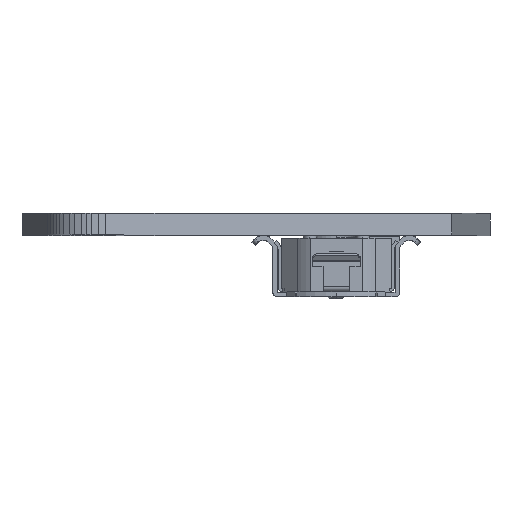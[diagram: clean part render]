
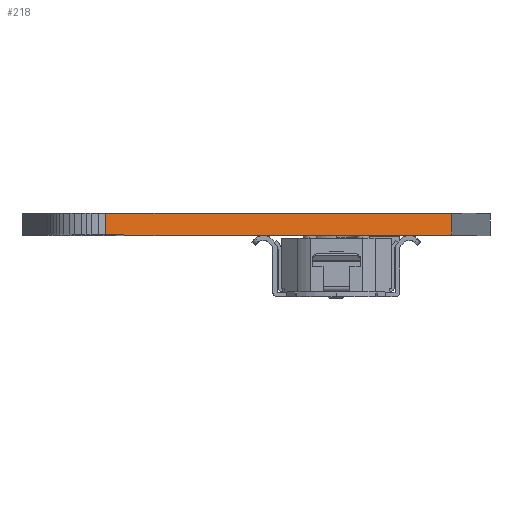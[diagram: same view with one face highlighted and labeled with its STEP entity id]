
A CAD part, top view. The second image highlights one B-rep face of the part: STEP entity #218.
In plain terms, the highlighted free-form (B-spline) face has degree [1, 1] with [2, 2] control points.
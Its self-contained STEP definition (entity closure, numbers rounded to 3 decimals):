
#57 = B_SPLINE_SURFACE_WITH_KNOTS('',1,1,(
    (#58,#59)
    ,(#60,#61
    )),.UNSPECIFIED.,.F.,.F.,.F.,(2,2),(2,2),(0.,0.339),(
    -0.9,0.),.PIECEWISE_BEZIER_KNOTS.);
#58 = CARTESIAN_POINT('',(8.684,2.5,45.989));
#59 = CARTESIAN_POINT('',(8.684,3.5,45.989));
#60 = CARTESIAN_POINT('',(9.018,2.5,45.931));
#61 = CARTESIAN_POINT('',(9.018,3.5,45.931));
#80 = VERTEX_POINT('',#81);
#81 = CARTESIAN_POINT('',(9.018,2.5,45.931));
#93 = B_SPLINE_SURFACE_WITH_KNOTS('',1,1,(
    (#94,#95)
    ,(#96,#97
    )),.UNSPECIFIED.,.F.,.F.,.F.,(2,2),(2,2),(33.2,54.497),(
    -21.839,-1.503),.PIECEWISE_BEZIER_KNOTS.);
#94 = CARTESIAN_POINT('',(5.2,2.5,25.661));
#95 = CARTESIAN_POINT('',(5.2,2.5,45.997));
#96 = CARTESIAN_POINT('',(26.497,2.5,25.661));
#97 = CARTESIAN_POINT('',(26.497,2.5,45.997));
#104 = EDGE_CURVE('',#105,#80,#107,.T.);
#105 = VERTEX_POINT('',#106);
#106 = CARTESIAN_POINT('',(9.018,3.5,45.931));
#107 = SURFACE_CURVE('',#108,(#111,#117),.PCURVE_S1.);
#108 = B_SPLINE_CURVE_WITH_KNOTS('',1,(#109,#110),.UNSPECIFIED.,.F.,.F.,
  (2,2),(0.,0.9),.PIECEWISE_BEZIER_KNOTS.);
#109 = CARTESIAN_POINT('',(9.018,3.5,45.931));
#110 = CARTESIAN_POINT('',(9.018,2.5,45.931));
#111 = PCURVE('',#57,#112);
#112 = DEFINITIONAL_REPRESENTATION('',(#113),#116);
#113 = B_SPLINE_CURVE_WITH_KNOTS('',1,(#114,#115),.UNSPECIFIED.,.F.,.F.,
  (2,2),(0.,0.9),.PIECEWISE_BEZIER_KNOTS.);
#114 = CARTESIAN_POINT('',(0.339,0.));
#115 = CARTESIAN_POINT('',(0.339,-0.9));
#116 = ( GEOMETRIC_REPRESENTATION_CONTEXT(2) 
PARAMETRIC_REPRESENTATION_CONTEXT() REPRESENTATION_CONTEXT('2D SPACE',''
  ) );
#117 = PCURVE('',#118,#123);
#118 = B_SPLINE_SURFACE_WITH_KNOTS('',1,1,(
    (#119,#120)
    ,(#121,#122
    )),.UNSPECIFIED.,.F.,.F.,.F.,(2,2),(2,2),(0.,16.168),(
    -0.9,0.),.PIECEWISE_BEZIER_KNOTS.);
#119 = CARTESIAN_POINT('',(9.018,2.5,45.931));
#120 = CARTESIAN_POINT('',(9.018,3.5,45.931));
#121 = CARTESIAN_POINT('',(24.75,2.5,42.2));
#122 = CARTESIAN_POINT('',(24.75,3.5,42.2));
#123 = DEFINITIONAL_REPRESENTATION('',(#124),#127);
#124 = B_SPLINE_CURVE_WITH_KNOTS('',1,(#125,#126),.UNSPECIFIED.,.F.,.F.,
  (2,2),(0.,0.9),.PIECEWISE_BEZIER_KNOTS.);
#125 = CARTESIAN_POINT('',(0.,0.));
#126 = CARTESIAN_POINT('',(0.,-0.9));
#127 = ( GEOMETRIC_REPRESENTATION_CONTEXT(2) 
PARAMETRIC_REPRESENTATION_CONTEXT() REPRESENTATION_CONTEXT('2D SPACE',''
  ) );
#141 = B_SPLINE_SURFACE_WITH_KNOTS('',1,1,(
    (#142,#143)
    ,(#144,#145
    )),.UNSPECIFIED.,.F.,.F.,.F.,(2,2),(2,2),(33.2,54.497),(
    -21.839,-1.503),.PIECEWISE_BEZIER_KNOTS.);
#142 = CARTESIAN_POINT('',(5.2,3.5,25.661));
#143 = CARTESIAN_POINT('',(5.2,3.5,45.997));
#144 = CARTESIAN_POINT('',(26.497,3.5,25.661));
#145 = CARTESIAN_POINT('',(26.497,3.5,45.997));
#218 = ADVANCED_FACE('',(#219),#118,.T.);
#219 = FACE_BOUND('',#220,.T.);
#220 = EDGE_LOOP('',(#221,#222,#242,#267));
#221 = ORIENTED_EDGE('',*,*,#104,.T.);
#222 = ORIENTED_EDGE('',*,*,#223,.T.);
#223 = EDGE_CURVE('',#80,#224,#226,.T.);
#224 = VERTEX_POINT('',#225);
#225 = CARTESIAN_POINT('',(24.75,2.5,42.2));
#226 = SURFACE_CURVE('',#227,(#230,#236),.PCURVE_S1.);
#227 = B_SPLINE_CURVE_WITH_KNOTS('',1,(#228,#229),.UNSPECIFIED.,.F.,.F.,
  (2,2),(0.,16.168),.PIECEWISE_BEZIER_KNOTS.);
#228 = CARTESIAN_POINT('',(9.018,2.5,45.931));
#229 = CARTESIAN_POINT('',(24.75,2.5,42.2));
#230 = PCURVE('',#118,#231);
#231 = DEFINITIONAL_REPRESENTATION('',(#232),#235);
#232 = B_SPLINE_CURVE_WITH_KNOTS('',1,(#233,#234),.UNSPECIFIED.,.F.,.F.,
  (2,2),(0.,16.168),.PIECEWISE_BEZIER_KNOTS.);
#233 = CARTESIAN_POINT('',(0.,-0.9));
#234 = CARTESIAN_POINT('',(16.168,-0.9));
#235 = ( GEOMETRIC_REPRESENTATION_CONTEXT(2) 
PARAMETRIC_REPRESENTATION_CONTEXT() REPRESENTATION_CONTEXT('2D SPACE',''
  ) );
#236 = PCURVE('',#93,#237);
#237 = DEFINITIONAL_REPRESENTATION('',(#238),#241);
#238 = B_SPLINE_CURVE_WITH_KNOTS('',1,(#239,#240),.UNSPECIFIED.,.F.,.F.,
  (2,2),(0.,16.168),.PIECEWISE_BEZIER_KNOTS.);
#239 = CARTESIAN_POINT('',(37.018,-1.569));
#240 = CARTESIAN_POINT('',(52.75,-5.3));
#241 = ( GEOMETRIC_REPRESENTATION_CONTEXT(2) 
PARAMETRIC_REPRESENTATION_CONTEXT() REPRESENTATION_CONTEXT('2D SPACE',''
  ) );
#242 = ORIENTED_EDGE('',*,*,#243,.F.);
#243 = EDGE_CURVE('',#244,#224,#246,.T.);
#244 = VERTEX_POINT('',#245);
#245 = CARTESIAN_POINT('',(24.75,3.5,42.2));
#246 = SURFACE_CURVE('',#247,(#250,#256),.PCURVE_S1.);
#247 = B_SPLINE_CURVE_WITH_KNOTS('',1,(#248,#249),.UNSPECIFIED.,.F.,.F.,
  (2,2),(0.,0.9),.PIECEWISE_BEZIER_KNOTS.);
#248 = CARTESIAN_POINT('',(24.75,3.5,42.2));
#249 = CARTESIAN_POINT('',(24.75,2.5,42.2));
#250 = PCURVE('',#118,#251);
#251 = DEFINITIONAL_REPRESENTATION('',(#252),#255);
#252 = B_SPLINE_CURVE_WITH_KNOTS('',1,(#253,#254),.UNSPECIFIED.,.F.,.F.,
  (2,2),(0.,0.9),.PIECEWISE_BEZIER_KNOTS.);
#253 = CARTESIAN_POINT('',(16.168,0.));
#254 = CARTESIAN_POINT('',(16.168,-0.9));
#255 = ( GEOMETRIC_REPRESENTATION_CONTEXT(2) 
PARAMETRIC_REPRESENTATION_CONTEXT() REPRESENTATION_CONTEXT('2D SPACE',''
  ) );
#256 = PCURVE('',#257,#262);
#257 = B_SPLINE_SURFACE_WITH_KNOTS('',1,1,(
    (#258,#259)
    ,(#260,#261
    )),.UNSPECIFIED.,.F.,.F.,.F.,(2,2),(2,2),(0.,14.236),(
    -0.9,0.),.PIECEWISE_BEZIER_KNOTS.);
#258 = CARTESIAN_POINT('',(24.75,2.5,42.2));
#259 = CARTESIAN_POINT('',(24.75,3.5,42.2));
#260 = CARTESIAN_POINT('',(26.497,2.5,28.072));
#261 = CARTESIAN_POINT('',(26.497,3.5,28.072));
#262 = DEFINITIONAL_REPRESENTATION('',(#263),#266);
#263 = B_SPLINE_CURVE_WITH_KNOTS('',1,(#264,#265),.UNSPECIFIED.,.F.,.F.,
  (2,2),(0.,0.9),.PIECEWISE_BEZIER_KNOTS.);
#264 = CARTESIAN_POINT('',(0.,0.));
#265 = CARTESIAN_POINT('',(0.,-0.9));
#266 = ( GEOMETRIC_REPRESENTATION_CONTEXT(2) 
PARAMETRIC_REPRESENTATION_CONTEXT() REPRESENTATION_CONTEXT('2D SPACE',''
  ) );
#267 = ORIENTED_EDGE('',*,*,#268,.F.);
#268 = EDGE_CURVE('',#105,#244,#269,.T.);
#269 = SURFACE_CURVE('',#270,(#273,#279),.PCURVE_S1.);
#270 = B_SPLINE_CURVE_WITH_KNOTS('',1,(#271,#272),.UNSPECIFIED.,.F.,.F.,
  (2,2),(0.,16.168),.PIECEWISE_BEZIER_KNOTS.);
#271 = CARTESIAN_POINT('',(9.018,3.5,45.931));
#272 = CARTESIAN_POINT('',(24.75,3.5,42.2));
#273 = PCURVE('',#118,#274);
#274 = DEFINITIONAL_REPRESENTATION('',(#275),#278);
#275 = B_SPLINE_CURVE_WITH_KNOTS('',1,(#276,#277),.UNSPECIFIED.,.F.,.F.,
  (2,2),(0.,16.168),.PIECEWISE_BEZIER_KNOTS.);
#276 = CARTESIAN_POINT('',(0.,0.));
#277 = CARTESIAN_POINT('',(16.168,0.));
#278 = ( GEOMETRIC_REPRESENTATION_CONTEXT(2) 
PARAMETRIC_REPRESENTATION_CONTEXT() REPRESENTATION_CONTEXT('2D SPACE',''
  ) );
#279 = PCURVE('',#141,#280);
#280 = DEFINITIONAL_REPRESENTATION('',(#281),#284);
#281 = B_SPLINE_CURVE_WITH_KNOTS('',1,(#282,#283),.UNSPECIFIED.,.F.,.F.,
  (2,2),(0.,16.168),.PIECEWISE_BEZIER_KNOTS.);
#282 = CARTESIAN_POINT('',(37.018,-1.569));
#283 = CARTESIAN_POINT('',(52.75,-5.3));
#284 = ( GEOMETRIC_REPRESENTATION_CONTEXT(2) 
PARAMETRIC_REPRESENTATION_CONTEXT() REPRESENTATION_CONTEXT('2D SPACE',''
  ) );
